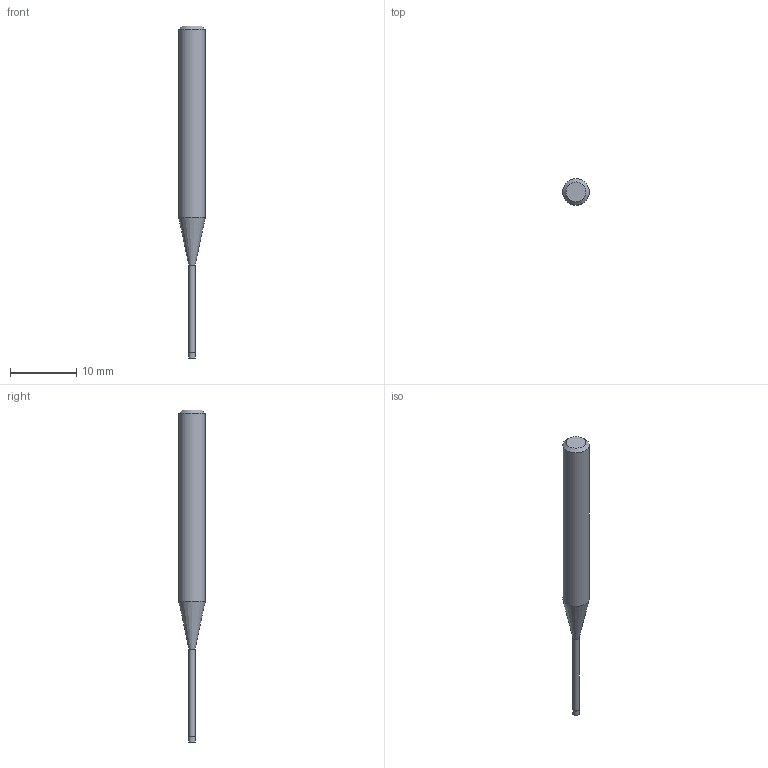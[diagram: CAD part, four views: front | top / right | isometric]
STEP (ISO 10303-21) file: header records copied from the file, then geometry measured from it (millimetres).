
FILE_DESCRIPTION((''),'2;1');
FILE_NAME('C:\Users\nsx150\AppData\Local\Temp\Mastercam 2021\RJ5U8K7RMU\TEMP.step','2021-04-21T16:41:08',(''),(''),'STEP Write','Mastercam 2021 ... CNC Software, Inc.','');
FILE_SCHEMA(('AUTOMOTIVE_DESIGN'));
Length unit declared in the file: millimetre
Products named in the file (1): None
Bounding box: 4 x 4 x 50 mm (x, y, z)
Volume: 409.7 mm3; surface area: 472 mm2
Topology: 2 solids, 2 shells, 9 faces, 12 edges, 7 vertices
Faces by surface type: plane 4, cylinder 3, cone 2
Full cylindrical faces by diameter (mm): 0.95 x1, 1 x1, 4 x1
Entity records: 211 total; most frequent: DIRECTION 36, CARTESIAN_POINT 25, AXIS2_PLACEMENT_3D 18, ORIENTED_EDGE 14, EDGE_LOOP 14, STYLED_ITEM 12, ADVANCED_FACE 9, FACE_BOUND 8
